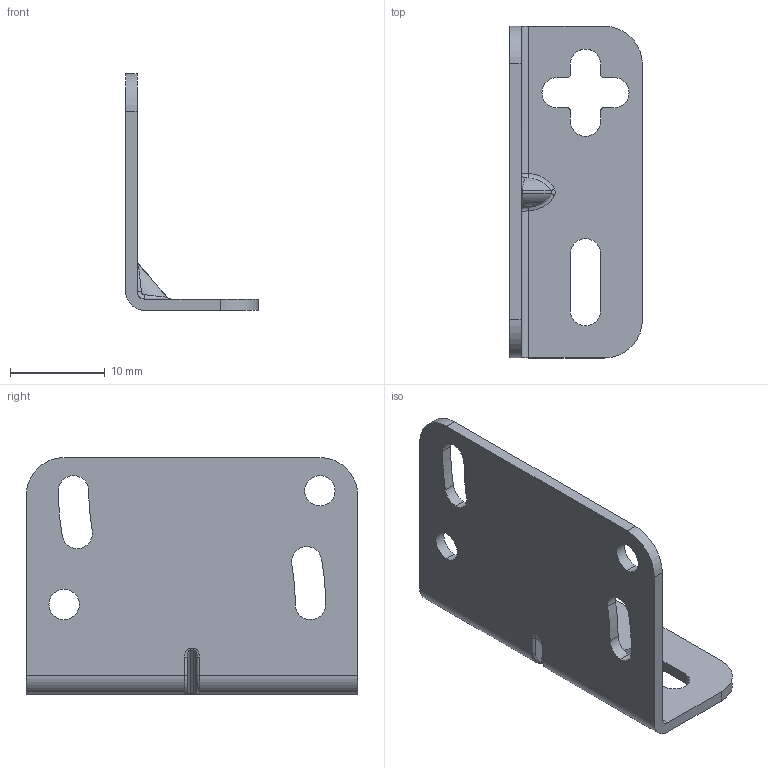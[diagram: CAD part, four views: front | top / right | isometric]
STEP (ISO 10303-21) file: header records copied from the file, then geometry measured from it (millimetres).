
FILE_DESCRIPTION (( 'STEP AP214' ), '1' );
FILE_NAME ('BYD BRACKET A.STEP', '2024-06-21T06:43:27', ( '' ), ( '' ), 'SwSTEP 2.0', 'SolidWorks 2018', '' );
FILE_SCHEMA (( 'AUTOMOTIVE_DESIGN' ));
Length unit declared in the file: millimetre
Products named in the file (1): BYD BRACKET A
Bounding box: 14 x 35 x 25 mm (x, y, z)
Volume: 1391 mm3; surface area: 2623.2 mm2
Topology: 1 solids, 1 shells, 80 faces, 214 edges, 136 vertices
Faces by surface type: cylinder 44, plane 21, bspline 13, torus 2
Entity records: 2754 total; most frequent: CARTESIAN_POINT 748, ORIENTED_EDGE 428, DIRECTION 411, EDGE_CURVE 214, AXIS2_PLACEMENT_3D 155, VERTEX_POINT 136, VECTOR 101, LINE 101
